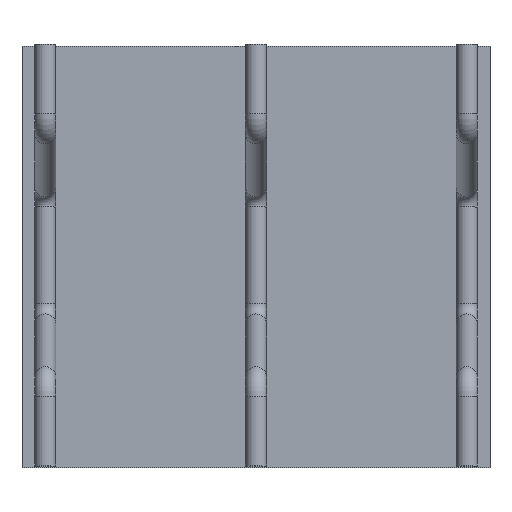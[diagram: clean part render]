
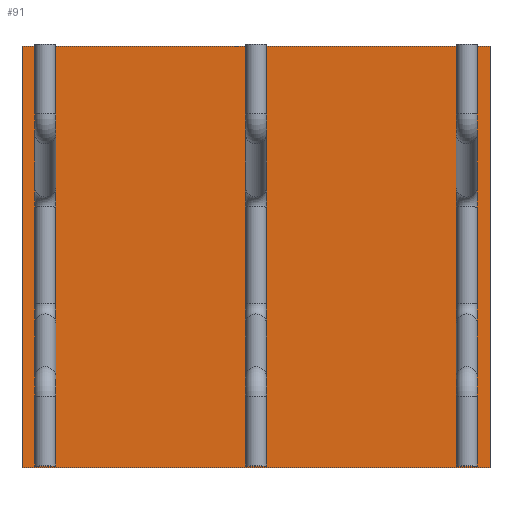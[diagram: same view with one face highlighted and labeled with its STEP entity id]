
A CAD part, top view. The second image highlights one B-rep face of the part: STEP entity #91.
In plain terms, the highlighted planar face has unit normal (0, 0, 1).
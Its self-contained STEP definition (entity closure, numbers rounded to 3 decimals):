
#52=CARTESIAN_POINT('Axis2P3D Location',(0.,0.,0.)) ;
#57=CARTESIAN_POINT('Line Origine',(0.,500.,0.)) ;
#61=CARTESIAN_POINT('Vertex',(555.,500.,0.)) ;
#63=CARTESIAN_POINT('Vertex',(-555.,500.,0.)) ;
#66=CARTESIAN_POINT('Line Origine',(-555.,0.,0.)) ;
#70=CARTESIAN_POINT('Vertex',(-555.,-500.,0.)) ;
#73=CARTESIAN_POINT('Line Origine',(0.,-500.,0.)) ;
#77=CARTESIAN_POINT('Vertex',(555.,-500.,0.)) ;
#80=CARTESIAN_POINT('Line Origine',(555.,0.,0.)) ;
#53=DIRECTION('Axis2P3D Direction',(0.,0.,1.)) ;
#54=DIRECTION('Axis2P3D XDirection',(1.,0.,0.)) ;
#58=DIRECTION('Vector Direction',(1.,0.,0.)) ;
#67=DIRECTION('Vector Direction',(0.,1.,0.)) ;
#74=DIRECTION('Vector Direction',(-1.,0.,0.)) ;
#81=DIRECTION('Vector Direction',(0.,-1.,0.)) ;
#55=AXIS2_PLACEMENT_3D('Plane Axis2P3D',#52,#53,#54) ;
#86=ORIENTED_EDGE('',*,*,#65,.T.) ;
#87=ORIENTED_EDGE('',*,*,#72,.T.) ;
#88=ORIENTED_EDGE('',*,*,#79,.T.) ;
#89=ORIENTED_EDGE('',*,*,#84,.T.) ;
#59=VECTOR('Line Direction',#58,1.) ;
#68=VECTOR('Line Direction',#67,1.) ;
#75=VECTOR('Line Direction',#74,1.) ;
#82=VECTOR('Line Direction',#81,1.) ;
#91=ADVANCED_FACE('Fill.1',(#90),#56,.T.) ;
#65=EDGE_CURVE('',#62,#64,#60,.F.) ;
#72=EDGE_CURVE('',#64,#71,#69,.F.) ;
#79=EDGE_CURVE('',#71,#78,#76,.F.) ;
#84=EDGE_CURVE('',#78,#62,#83,.F.) ;
#85=EDGE_LOOP('',(#86,#87,#88,#89)) ;
#90=FACE_OUTER_BOUND('',#85,.T.) ;
#60=LINE('Line',#57,#59) ;
#69=LINE('Line',#66,#68) ;
#76=LINE('Line',#73,#75) ;
#83=LINE('Line',#80,#82) ;
#56=PLANE('',#55) ;
#62=VERTEX_POINT('',#61) ;
#64=VERTEX_POINT('',#63) ;
#71=VERTEX_POINT('',#70) ;
#78=VERTEX_POINT('',#77) ;
